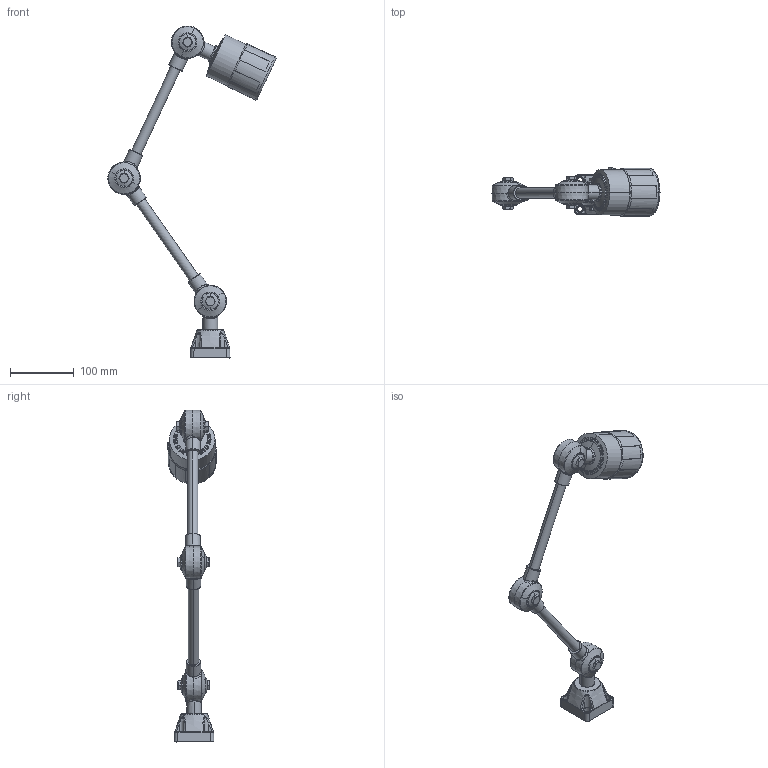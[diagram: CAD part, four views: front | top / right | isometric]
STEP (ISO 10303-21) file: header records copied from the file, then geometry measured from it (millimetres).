
FILE_DESCRIPTION((''),'2;1');
FILE_NAME('THL07-9RS4','2016-09-30T',('ABS'),(''),'PRO/ENGINEER BY PARAMETRIC TECHNOLOGY CORPORATION, 2012360','PRO/ENGINEER BY PARAMETRIC TECHNOLOGY CORPORATION, 2012360','');
FILE_SCHEMA(('CONFIG_CONTROL_DESIGN'));
Length unit declared in the file: inch
Products named in the file (1): THL07-9RS4
Bounding box: 264.04 x 76.12 x 521.61 mm (x, y, z)
Volume: 432252.6 mm3; surface area: 180974.2 mm2
Topology: 1 solids, 5 shells, 1260 faces, 3654 edges, 2413 vertices
Faces by surface type: plane 425, cylinder 418, bspline 140, cone 122, torus 92, sphere 60, extrusion 3
Entity records: 59502 total; most frequent: CARTESIAN_POINT 27413, ORIENTED_EDGE 7258, DIRECTION 6178, EDGE_CURVE 3629, AXIS2_PLACEMENT_3D 2437, VERTEX_POINT 2413, EDGE_LOOP 1378, CIRCLE 1320
